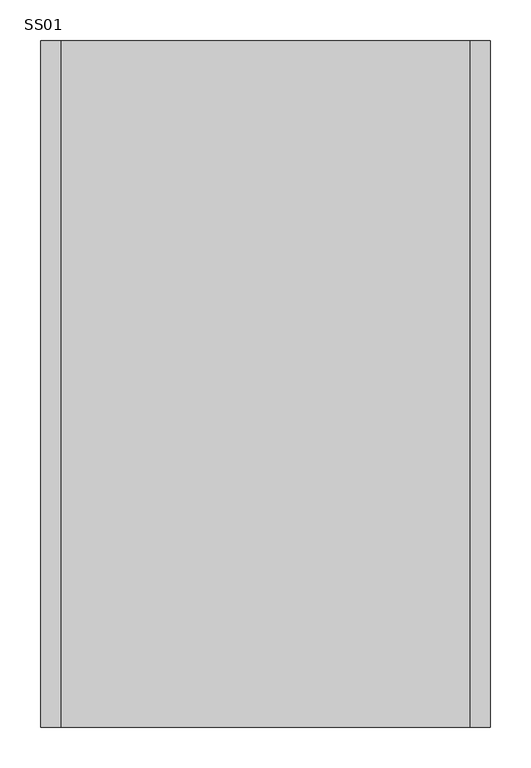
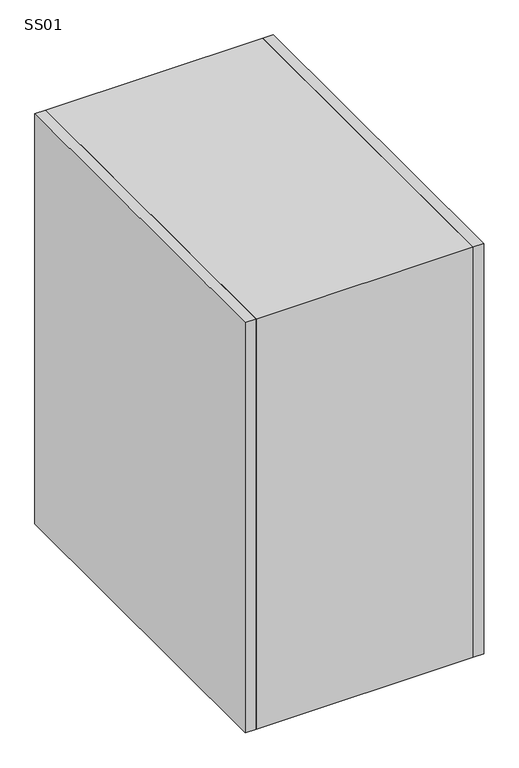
"""IFC4 building model written with IfcOpenShell, lengths in millimetres: proxy geometry, ZYR_03.06.06 Silenciador Rectangular : SS01."""

from ifc_helpers import new_model, si_unit, origin, origin_with_axes, place, context, project, spatial, polyline, outline, extrude, source, transform, mapped, element, save


def ss01_473733eb(model_context):
    return source(origin(), model_context, "Body", "SweptSolid", [
        extrude(outline(polyline([(250.0, 420.0), (250.0, -420.0), (-250.0, -420.0), (-250.0, 420.0), (250.0, 420.0)])), origin_with_axes(), (0.0, 0.0, 1.0), 1000.0),
        extrude(outline(polyline([(275.0, 420.0), (275.0, -420.0), (250.0, -420.0), (250.0, 420.0), (275.0, 420.0)])), origin_with_axes(), (0.0, 0.0, 1.0), 1000.0),
        extrude(outline(polyline([(-250.0, 420.0), (-250.0, -420.0), (-275.0, -420.0), (-275.0, 420.0), (-250.0, 420.0)])), origin_with_axes(), (0.0, 0.0, 1.0), 1000.0),
    ])


if __name__ == "__main__":
    model = new_model("IFC4")
    model_context = context("Model", 3, world=origin())
    ifc_project = project(units=[si_unit("LENGTHUNIT", "METRE", prefix="MILLI")], contexts=[model_context])
    site = spatial("IfcSite", under=ifc_project)
    building = spatial("IfcBuilding", under=site)
    placement = place(None, origin())
    ss01_shape = ss01_473733eb(model_context)
    element("IfcBuildingElementProxy", 1, Name="ZYR_03.06.06 Silenciador Rectangular : SS01", ObjectType="ZYR_03.06.06 Silenciador Rectangular : SS01", at=placement, inside=building, context=model_context, shape_type="MappedRepresentation", body=[
        mapped(ss01_shape, transform((0.0, 0.0, 0.0), x_axis=(1.0, 0.0, 0.0), y_axis=(0.0, 1.0, 0.0), z_axis=(0.0, 0.0, 1.0))),
    ])
    save(model, "model.ifc")
